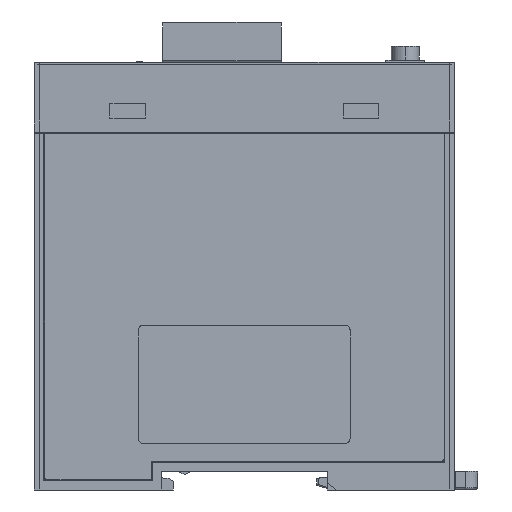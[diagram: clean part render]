
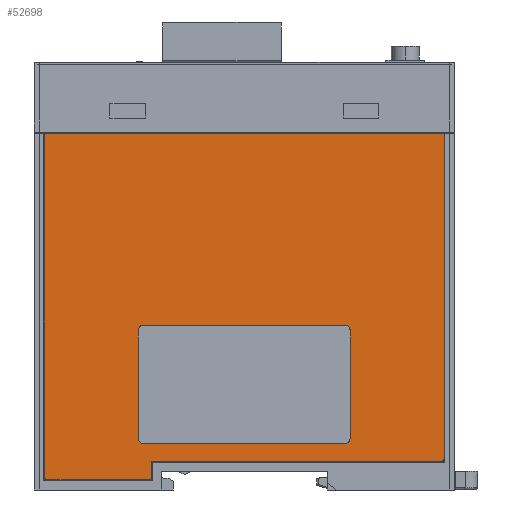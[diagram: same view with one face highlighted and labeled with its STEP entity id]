
A CAD part, left-side view. The second image highlights one B-rep face of the part: STEP entity #52698.
In plain terms, the highlighted planar face has unit normal (-1, 0, 0).
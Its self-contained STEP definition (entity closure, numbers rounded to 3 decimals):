
#48729=DIRECTION('',(0.,1.,0.));
#48730=VECTOR('',#48729,85.6);
#48731=CARTESIAN_POINT('',(-12.5,-42.8,-15.3));
#48732=LINE('',#48731,#48730);
#49325=CARTESIAN_POINT('',(-12.5,42.8,-89.));
#49326=CARTESIAN_POINT('',(-12.5,42.8,-89.167));
#49327=CARTESIAN_POINT('',(-12.5,42.674,-89.374));
#49328=CARTESIAN_POINT('',(-12.5,42.467,-89.5));
#49329=CARTESIAN_POINT('',(-12.5,42.3,-89.5));
#49334=DIRECTION('',(0.,0.,-1.));
#49335=VECTOR('',#49334,73.7);
#49336=CARTESIAN_POINT('',(-12.5,42.8,-15.3));
#49337=LINE('',#49336,#49335);
#49341=DIRECTION('',(0.,0.,1.));
#49342=VECTOR('',#49341,69.7);
#49343=CARTESIAN_POINT('',(-12.5,-42.8,-85.));
#49344=LINE('',#49343,#49342);
#49348=CARTESIAN_POINT('',(-12.5,-42.3,-85.5));
#49349=CARTESIAN_POINT('',(-12.5,-42.467,-85.5));
#49350=CARTESIAN_POINT('',(-12.5,-42.674,-85.374));
#49351=CARTESIAN_POINT('',(-12.5,-42.8,-85.167));
#49352=CARTESIAN_POINT('',(-12.5,-42.8,-85.));
#49357=DIRECTION('',(0.,-1.,0.));
#49358=VECTOR('',#49357,62.25);
#49359=CARTESIAN_POINT('',(-12.5,19.95,-85.5));
#49360=LINE('',#49359,#49358);
#49364=DIRECTION('',(0.,0.,1.));
#49365=VECTOR('',#49364,4.);
#49366=CARTESIAN_POINT('',(-12.5,19.95,-89.5));
#49367=LINE('',#49366,#49365);
#49371=DIRECTION('',(0.,-1.,0.));
#49372=VECTOR('',#49371,22.35);
#49373=CARTESIAN_POINT('',(-12.5,42.3,-89.5));
#49374=LINE('',#49373,#49372);
#49378=DIRECTION('',(0.,0.,1.));
#49379=VECTOR('',#49378,23.3);
#49380=CARTESIAN_POINT('',(-12.5,-22.65,-80.7));
#49381=LINE('',#49380,#49379);
#49385=DIRECTION('',(0.,1.,0.));
#49386=VECTOR('',#49385,43.3);
#49387=CARTESIAN_POINT('',(-12.5,-21.65,-56.4));
#49388=LINE('',#49387,#49386);
#49392=DIRECTION('',(0.,0.,-1.));
#49393=VECTOR('',#49392,23.3);
#49394=CARTESIAN_POINT('',(-12.5,22.65,-57.4));
#49395=LINE('',#49394,#49393);
#49399=DIRECTION('',(0.,-1.,0.));
#49400=VECTOR('',#49399,43.3);
#49401=CARTESIAN_POINT('',(-12.5,21.65,-81.7));
#49402=LINE('',#49401,#49400);
#49599=CARTESIAN_POINT('',(-12.5,-21.65,-57.4));
#49600=DIRECTION('',(1.,0.,0.));
#49601=DIRECTION('',(0.,0.,1.));
#49602=AXIS2_PLACEMENT_3D('',#49599,#49600,#49601);
#49667=CARTESIAN_POINT('',(-12.5,21.65,-57.4));
#49668=DIRECTION('',(1.,0.,0.));
#49669=DIRECTION('',(0.,1.,0.));
#49670=AXIS2_PLACEMENT_3D('',#49667,#49668,#49669);
#49689=CARTESIAN_POINT('',(-12.5,21.65,-80.7));
#49690=DIRECTION('',(1.,0.,0.));
#49691=DIRECTION('',(0.,0.,-1.));
#49692=AXIS2_PLACEMENT_3D('',#49689,#49690,#49691);
#49711=CARTESIAN_POINT('',(-12.5,-21.65,-80.7));
#49712=DIRECTION('',(1.,0.,0.));
#49713=DIRECTION('',(0.,-1.,0.));
#49714=AXIS2_PLACEMENT_3D('',#49711,#49712,#49713);
#50451=CARTESIAN_POINT('',(-12.5,19.95,-89.5));
#50452=CARTESIAN_POINT('',(-12.5,19.95,-85.5));
#50453=VERTEX_POINT('',#50451);
#50454=VERTEX_POINT('',#50452);
#50455=CARTESIAN_POINT('',(-12.5,-42.8,-15.3));
#50456=CARTESIAN_POINT('',(-12.5,42.8,-15.3));
#50457=VERTEX_POINT('',#50455);
#50458=VERTEX_POINT('',#50456);
#50808=CARTESIAN_POINT('',(-12.5,42.8,-89.));
#50810=VERTEX_POINT('',#50808);
#50812=VERTEX_POINT('',#49329);
#50815=CARTESIAN_POINT('',(-12.5,-42.3,-85.5));
#50817=VERTEX_POINT('',#50815);
#50819=VERTEX_POINT('',#49352);
#50878=CARTESIAN_POINT('',(-12.5,22.65,-57.4));
#50879=VERTEX_POINT('',#50878);
#50880=CARTESIAN_POINT('',(-12.5,21.65,-56.4));
#50881=VERTEX_POINT('',#50880);
#50886=CARTESIAN_POINT('',(-12.5,-21.65,-56.4));
#50887=VERTEX_POINT('',#50886);
#50888=CARTESIAN_POINT('',(-12.5,-22.65,-57.4));
#50889=VERTEX_POINT('',#50888);
#50894=CARTESIAN_POINT('',(-12.5,-22.65,-80.7));
#50895=VERTEX_POINT('',#50894);
#50896=CARTESIAN_POINT('',(-12.5,-21.65,-81.7));
#50897=VERTEX_POINT('',#50896);
#50902=CARTESIAN_POINT('',(-12.5,21.65,-81.7));
#50903=VERTEX_POINT('',#50902);
#50904=CARTESIAN_POINT('',(-12.5,22.65,-80.7));
#50905=VERTEX_POINT('',#50904);
#52663=CARTESIAN_POINT('',(-12.5,0.,0.));
#52664=DIRECTION('',(-1.,0.,0.));
#52665=DIRECTION('',(0.,0.,1.));
#52666=AXIS2_PLACEMENT_3D('',#52663,#52664,#52665);
#52667=PLANE('',#52666);
#52668=ORIENTED_EDGE('',*,*,#51199,.F.);
#52669=ORIENTED_EDGE('',*,*,#51247,.F.);
#52670=ORIENTED_EDGE('',*,*,#52231,.F.);
#52671=ORIENTED_EDGE('',*,*,#51521,.F.);
#52672=ORIENTED_EDGE('',*,*,#51562,.F.);
#52673=ORIENTED_EDGE('',*,*,#51592,.F.);
#52675=ORIENTED_EDGE('',*,*,#52674,.F.);
#52677=ORIENTED_EDGE('',*,*,#52676,.F.);
#52678=EDGE_LOOP('',(#52668,#52669,#52670,#52671,#52672,#52673,#52675,#52677));
#52679=FACE_OUTER_BOUND('',#52678,.F.);
#52681=ORIENTED_EDGE('',*,*,#52680,.T.);
#52683=ORIENTED_EDGE('',*,*,#52682,.F.);
#52685=ORIENTED_EDGE('',*,*,#52684,.T.);
#52687=ORIENTED_EDGE('',*,*,#52686,.F.);
#52689=ORIENTED_EDGE('',*,*,#52688,.T.);
#52691=ORIENTED_EDGE('',*,*,#52690,.F.);
#52693=ORIENTED_EDGE('',*,*,#52692,.T.);
#52695=ORIENTED_EDGE('',*,*,#52694,.F.);
#52696=EDGE_LOOP('',(#52681,#52683,#52685,#52687,#52689,#52691,#52693,#52695));
#52697=FACE_BOUND('',#52696,.F.);
#49330=B_SPLINE_CURVE_WITH_KNOTS('',3,(#49325,#49326,#49327,#49328,#49329),
.UNSPECIFIED.,.F.,.F.,(4,1,4),(0.,0.5,1.),.UNSPECIFIED.);
#49353=B_SPLINE_CURVE_WITH_KNOTS('',3,(#49348,#49349,#49350,#49351,#49352),
.UNSPECIFIED.,.F.,.F.,(4,1,4),(0.,0.5,1.),.UNSPECIFIED.);
#49603=CIRCLE('',#49602,1.);
#49671=CIRCLE('',#49670,1.);
#49693=CIRCLE('',#49692,1.);
#49715=CIRCLE('',#49714,1.);
#51199=EDGE_CURVE('',#50810,#50812,#49330,.T.);
#51247=EDGE_CURVE('',#50458,#50810,#49337,.T.);
#51521=EDGE_CURVE('',#50819,#50457,#49344,.T.);
#51562=EDGE_CURVE('',#50817,#50819,#49353,.T.);
#51592=EDGE_CURVE('',#50454,#50817,#49360,.T.);
#52231=EDGE_CURVE('',#50457,#50458,#48732,.T.);
#52674=EDGE_CURVE('',#50453,#50454,#49367,.T.);
#52676=EDGE_CURVE('',#50812,#50453,#49374,.T.);
#52680=EDGE_CURVE('',#50895,#50889,#49381,.T.);
#52682=EDGE_CURVE('',#50887,#50889,#49603,.T.);
#52684=EDGE_CURVE('',#50887,#50881,#49388,.T.);
#52686=EDGE_CURVE('',#50879,#50881,#49671,.T.);
#52688=EDGE_CURVE('',#50879,#50905,#49395,.T.);
#52690=EDGE_CURVE('',#50903,#50905,#49693,.T.);
#52692=EDGE_CURVE('',#50903,#50897,#49402,.T.);
#52694=EDGE_CURVE('',#50895,#50897,#49715,.T.);
#52698=ADVANCED_FACE('',(#52679,#52697),#52667,.T.);
